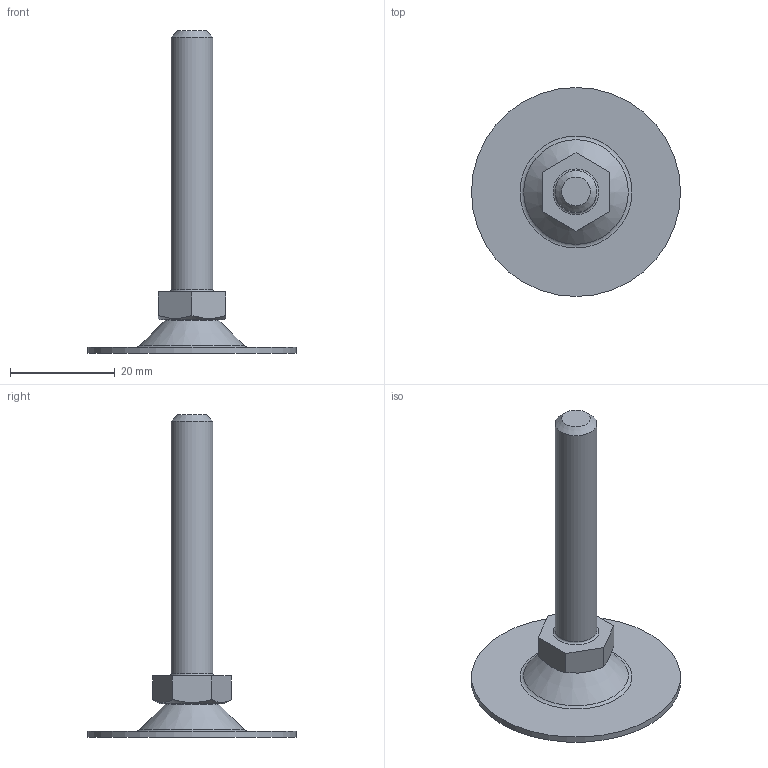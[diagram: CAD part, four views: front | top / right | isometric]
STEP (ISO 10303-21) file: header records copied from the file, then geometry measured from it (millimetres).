
FILE_DESCRIPTION(('STEP AP203'), '1');
FILE_NAME('A00050.1040816', '', ('UNSPECIFIED'), ('UNSPECIFIED'), 'C3D Converter', 'C3D Toolkit', '');
FILE_SCHEMA(('CONFIG_CONTROL_DESIGN'));
Length unit declared in the file: millimetre
Products named in the file (4): A00050.1040850; A00050.1040
Assembly tree (3 placements, depth 2):
  A00050.1040850
    A00050.1040
    (unnamed)
    (unnamed)
Bounding box: 40 x 40 x 61.78 mm (x, y, z)
Volume: 4930.4 mm3; surface area: 5032.6 mm2
Topology: 3 solids, 3 shells, 58 faces, 130 edges, 82 vertices
Faces by surface type: plane 28, torus 8, bspline 8, cone 7, cylinder 6, sphere 1
Full cylindrical faces by diameter (mm): 3.3 x1, 4 x1, 4.5 x1, 8 x2, 40 x1
Entity records: 2171 total; most frequent: CARTESIAN_POINT 784, DIRECTION 242, ORIENTED_EDGE 214, EDGE_CURVE 107, AXIS2_PLACEMENT_3D 95, EDGE_LOOP 86, VERTEX_POINT 81, ADVANCED_FACE 58
